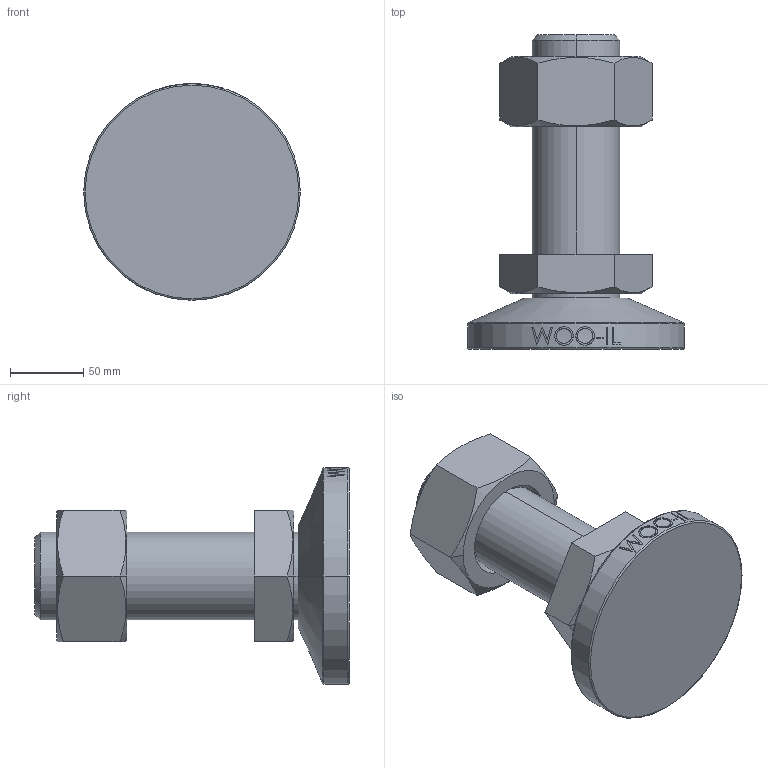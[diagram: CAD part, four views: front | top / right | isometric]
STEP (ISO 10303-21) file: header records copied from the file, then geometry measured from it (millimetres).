
FILE_DESCRIPTION (( 'STEP AP214' ), '1' );
FILE_NAME ('WTrB60-148-Tr60-150.step', '2021-03-16T06:00:34', ( '' ), ( '' ), 'SwSTEP 2.0', 'SolidWorks 2019', '' );
FILE_SCHEMA (( 'AUTOMOTIVE_DESIGN' ));
Length unit declared in the file: millimetre
Products named in the file (2): WTrB60-148-Tr60-150
Bounding box: 148 x 215 x 148 mm (x, y, z)
Volume: 1290880.9 mm3; surface area: 124940.4 mm2
Topology: 3 solids, 3 shells, 97 faces, 225 edges, 144 vertices
Faces by surface type: plane 47, cylinder 16, bspline 16, cone 14, torus 4
Entity records: 4530 total; most frequent: CARTESIAN_POINT 2386, ORIENTED_EDGE 450, DIRECTION 387, EDGE_CURVE 225, AXIS2_PLACEMENT_3D 145, VERTEX_POINT 144, EDGE_LOOP 109, ADVANCED_FACE 97
